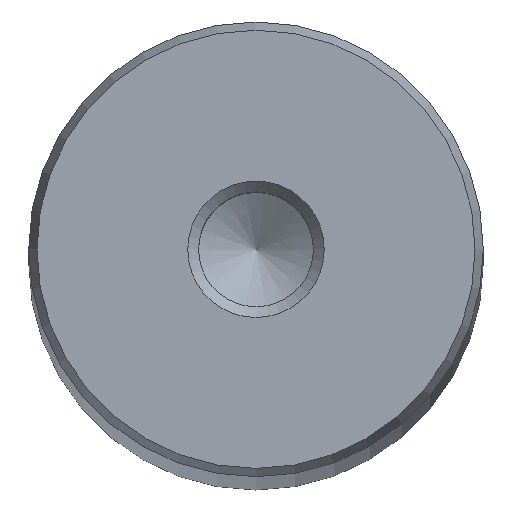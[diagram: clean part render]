
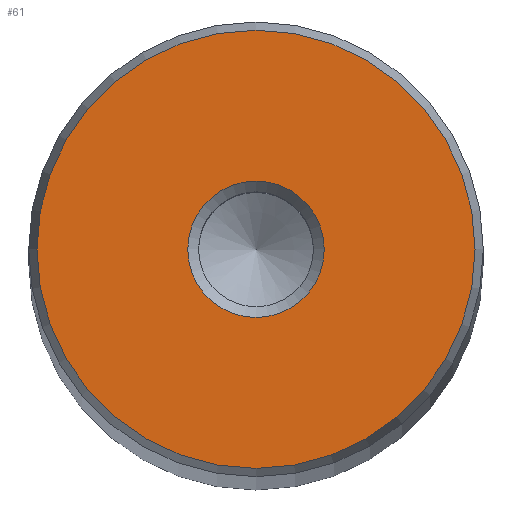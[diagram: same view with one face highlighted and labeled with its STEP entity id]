
A CAD part, top view. The second image highlights one B-rep face of the part: STEP entity #61.
In plain terms, the highlighted planar face has unit normal (0, 0, 1).
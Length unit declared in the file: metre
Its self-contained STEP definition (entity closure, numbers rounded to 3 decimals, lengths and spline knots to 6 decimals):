
#61 = ADVANCED_FACE( '', ( #128, #129 ), #130, .T. );
#128 = FACE_OUTER_BOUND( '', #187, .T. );
#129 = FACE_BOUND( '', #188, .T. );
#130 = PLANE( '', #189 );
#187 = EDGE_LOOP( '', ( #264 ) );
#188 = EDGE_LOOP( '', ( #265 ) );
#189 = AXIS2_PLACEMENT_3D( '', #266, #267, #268 );
#264 = ORIENTED_EDGE( '', *, *, #282, .T. );
#265 = ORIENTED_EDGE( '', *, *, #294, .T. );
#266 = CARTESIAN_POINT( '', ( 0., 0., 0.673 ) );
#267 = DIRECTION( '', ( 0., 0., 1. ) );
#268 = DIRECTION( '', ( 1., 0., 0. ) );
#282 = EDGE_CURVE( '', #317, #317, #318, .T. );
#294 = EDGE_CURVE( '', #330, #330, #331, .T. );
#317 = VERTEX_POINT( '', #354 );
#318 = CIRCLE( '', #355, 0.019272 );
#330 = VERTEX_POINT( '', #367 );
#331 = CIRCLE( '', #368, 0.006 );
#354 = CARTESIAN_POINT( '', ( 0.019272, 0., 0.673 ) );
#355 = AXIS2_PLACEMENT_3D( '', #394, #395, #396 );
#367 = CARTESIAN_POINT( '', ( 0.006, 0., 0.673 ) );
#368 = AXIS2_PLACEMENT_3D( '', #403, #404, #405 );
#394 = CARTESIAN_POINT( '', ( 0., 0., 0.673 ) );
#395 = DIRECTION( '', ( 0., 0., 1. ) );
#396 = DIRECTION( '', ( 1., 0., 0. ) );
#403 = CARTESIAN_POINT( '', ( 0., 0., 0.673 ) );
#404 = DIRECTION( '', ( 0., 0., -1. ) );
#405 = DIRECTION( '', ( 1., 0., 0. ) );
